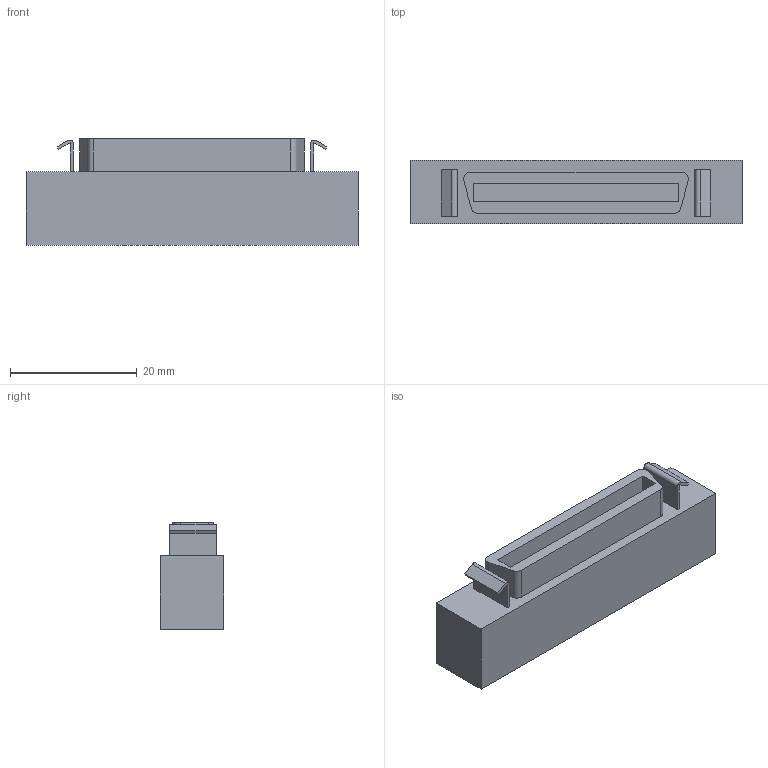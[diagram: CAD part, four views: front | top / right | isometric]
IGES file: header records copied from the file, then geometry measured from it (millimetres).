
Start section:  PTC IGES file: j5-cn3a.igs
Global section: file name: j5-cn3a.igs; native system: Creo Parametric by PTC Inc.; preprocessor: 2017480; author: BP68092; organization: Unknown; date: 20190225.135506; units: millimetre
Bounding box: 52.4 x 10 x 16.85 mm (x, y, z)
Volume: 6816.3 mm3; surface area: 3509.5 mm2
Topology: 1 solids, 1 shells, 36 faces, 90 edges, 60 vertices
Faces by surface type: bspline 30, revolution 6
